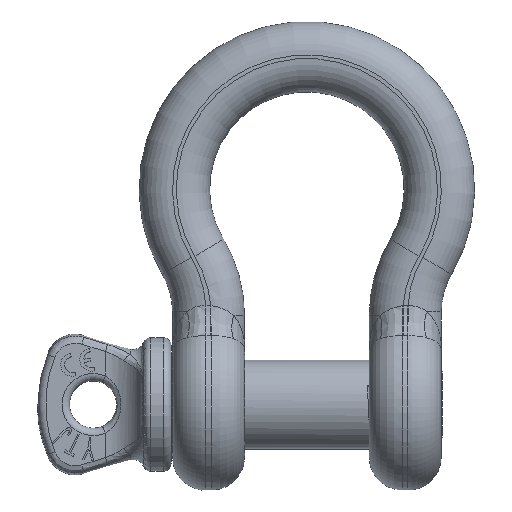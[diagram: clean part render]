
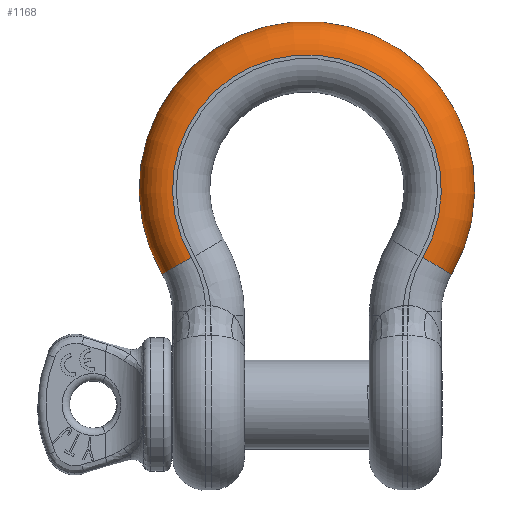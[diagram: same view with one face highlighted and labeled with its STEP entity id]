
A CAD part, front view. The second image highlights one B-rep face of the part: STEP entity #1168.
In plain terms, the highlighted toroidal (fillet/blend) face has major radius 18.1 mm and minor radius 4.5 mm.
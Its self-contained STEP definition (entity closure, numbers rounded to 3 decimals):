
#605=FACE_OUTER_BOUND('',#3132,.T.);
#915=TOROIDAL_SURFACE('',#10139,18.1,4.5);
#1168=ADVANCED_FACE('',(#605),#915,.T.);
#2721=CIRCLE('',#10079,18.1);
#2727=CIRCLE('',#10088,22.6);
#2752=CIRCLE('',#10135,4.5);
#2753=CIRCLE('',#10138,4.5);
#3132=EDGE_LOOP('',(#4917,#4918,#4919,#4920));
#4917=ORIENTED_EDGE('',*,*,#8170,.T.);
#4918=ORIENTED_EDGE('',*,*,#8093,.F.);
#4919=ORIENTED_EDGE('',*,*,#8177,.F.);
#4920=ORIENTED_EDGE('',*,*,#8104,.F.);
#6938=VERTEX_POINT('',#17775);
#6939=VERTEX_POINT('',#17777);
#6945=VERTEX_POINT('',#17793);
#6946=VERTEX_POINT('',#17797);
#8093=EDGE_CURVE('',#6938,#6939,#2721,.T.);
#8104=EDGE_CURVE('',#6946,#6945,#2727,.T.);
#8170=EDGE_CURVE('',#6946,#6939,#2752,.T.);
#8177=EDGE_CURVE('',#6945,#6938,#2753,.T.);
#10079=AXIS2_PLACEMENT_3D('',#17776,#11217,#11218);
#10088=AXIS2_PLACEMENT_3D('',#17798,#11240,#11241);
#10135=AXIS2_PLACEMENT_3D('',#18097,#11349,#11350);
#10138=AXIS2_PLACEMENT_3D('',#18132,#11355,#11356);
#10139=AXIS2_PLACEMENT_3D('',#18133,#11357,#11358);
#11217=DIRECTION('',(0.,-1.,0.));
#11218=DIRECTION('',(-1.,0.,0.));
#11240=DIRECTION('',(0.,1.,0.));
#11241=DIRECTION('',(-1.,0.,0.));
#11349=DIRECTION('',(-0.507,0.,0.862));
#11350=DIRECTION('',(-0.862,0.,-0.507));
#11355=DIRECTION('',(-0.507,0.,-0.862));
#11356=DIRECTION('',(0.862,0.,-0.507));
#11357=DIRECTION('',(0.,1.,0.));
#11358=DIRECTION('',(-1.,0.,0.));
#17775=CARTESIAN_POINT('',(15.902,-4.85,-10.176));
#17776=CARTESIAN_POINT('',(0.3,-4.85,-1.));
#17777=CARTESIAN_POINT('',(-15.302,-4.85,-10.176));
#17793=CARTESIAN_POINT('',(19.78,-0.35,-12.458));
#17797=CARTESIAN_POINT('',(-19.18,-0.35,-12.458));
#17798=CARTESIAN_POINT('',(0.3,-0.35,-1.));
#18097=CARTESIAN_POINT('',(-15.302,-0.35,-10.176));
#18132=CARTESIAN_POINT('',(15.902,-0.35,-10.176));
#18133=CARTESIAN_POINT('',(0.3,-0.35,-1.));
